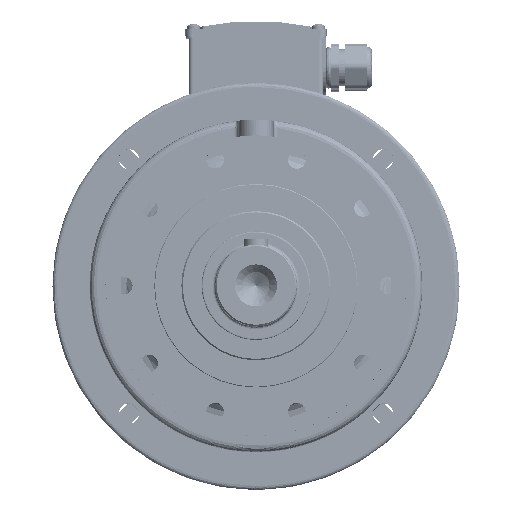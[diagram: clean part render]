
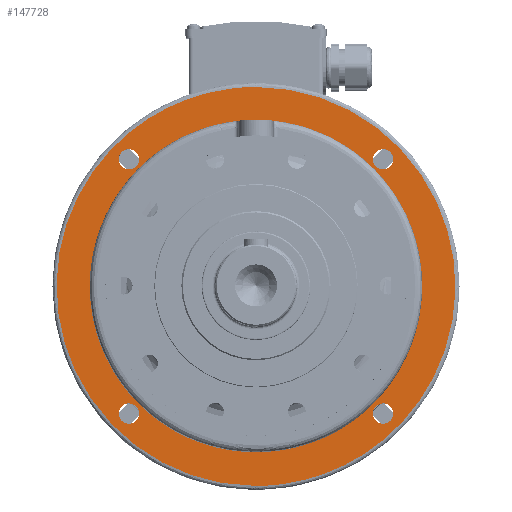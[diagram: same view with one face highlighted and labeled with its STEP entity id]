
A CAD part, top view. The second image highlights one B-rep face of the part: STEP entity #147728.
In plain terms, the highlighted planar face has unit normal (0, 0, 1).
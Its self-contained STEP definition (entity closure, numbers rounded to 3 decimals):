
#2413 = AXIS2_PLACEMENT_3D ( 'NONE', #175052, #175045, #175033 ) ;
#6098 = CARTESIAN_POINT ( 'NONE',  ( 0., -147., -77.5 ) ) ;
#70810 = CARTESIAN_POINT ( 'NONE',  ( 0., 147., -77.5 ) ) ;
#77344 =( BOUNDED_CURVE ( )  B_SPLINE_CURVE ( 3, ( #115249, #115272, #115271, #115260 ),
 .UNSPECIFIED., .F., .F. ) 
 B_SPLINE_CURVE_WITH_KNOTS ( ( 4, 4 ),
 ( 0., 0.5 ),
 .UNSPECIFIED. ) 
 CURVE ( )  GEOMETRIC_REPRESENTATION_ITEM ( )  RATIONAL_B_SPLINE_CURVE ( ( 1., 0.333, 0.333, 1. ) ) 
 REPRESENTATION_ITEM ( '' )  );
#98167 = CIRCLE ( 'NONE', #186392, 7.5 ) ;
#98244 = CIRCLE ( 'NONE', #186303, 113. ) ;
#98274 = CIRCLE ( 'NONE', #186316, 7.5 ) ;
#98390 = CIRCLE ( 'NONE', #186378, 7.5 ) ;
#98738 = CIRCLE ( 'NONE', #186450, 7.5 ) ;
#102196 = EDGE_LOOP ( 'NONE', ( #116614, #116649 ) ) ;
#102209 = EDGE_LOOP ( 'NONE', ( #116619, #116641 ) ) ;
#102233 = EDGE_LOOP ( 'NONE', ( #116622, #116618 ) ) ;
#102242 = EDGE_LOOP ( 'NONE', ( #116626, #116664 ) ) ;
#102257 = EDGE_LOOP ( 'NONE', ( #116638, #116696 ) ) ;
#102323 = EDGE_LOOP ( 'NONE', ( #116615, #116634 ) ) ;
#105916 = CARTESIAN_POINT ( 'NONE',  ( 0., 0., -77.5 ) ) ;
#105917 = DIRECTION ( 'NONE',  ( 0., 0., -1. ) ) ;
#105948 = DIRECTION ( 'NONE',  ( -1., 0., 0. ) ) ;
#105954 = CARTESIAN_POINT ( 'NONE',  ( 93.692, -93.692, -77.5 ) ) ;
#105960 = DIRECTION ( 'NONE',  ( 0., 0., -1. ) ) ;
#105973 = DIRECTION ( 'NONE',  ( -1., 0., 0. ) ) ;
#105974 = DIRECTION ( 'NONE',  ( -1., 0., 0. ) ) ;
#105978 = DIRECTION ( 'NONE',  ( 0., 0., -1. ) ) ;
#105988 = CARTESIAN_POINT ( 'NONE',  ( -93.692, 93.692, -77.5 ) ) ;
#106097 = CARTESIAN_POINT ( 'NONE',  ( 93.692, 93.692, -77.5 ) ) ;
#106098 = DIRECTION ( 'NONE',  ( -1., 0., 0. ) ) ;
#106124 = DIRECTION ( 'NONE',  ( 0., 0., -1. ) ) ;
#107097 = CARTESIAN_POINT ( 'NONE',  ( -93.692, -93.692, -77.5 ) ) ;
#107129 = DIRECTION ( 'NONE',  ( -1., 0., 0. ) ) ;
#107137 = DIRECTION ( 'NONE',  ( 0., 0., -1. ) ) ;
#115249 = CARTESIAN_POINT ( 'NONE',  ( 0., 147., -77.5 ) ) ;
#115260 = CARTESIAN_POINT ( 'NONE',  ( 0., -147., -77.5 ) ) ;
#115271 = CARTESIAN_POINT ( 'NONE',  ( 294., -147., -77.5 ) ) ;
#115272 = CARTESIAN_POINT ( 'NONE',  ( 294., 147., -77.5 ) ) ;
#116614 = ORIENTED_EDGE ( 'NONE', *, *, #179316, .F. ) ;
#116615 = ORIENTED_EDGE ( 'NONE', *, *, #180509, .T. ) ;
#116618 = ORIENTED_EDGE ( 'NONE', *, *, #180549, .T. ) ;
#116619 = ORIENTED_EDGE ( 'NONE', *, *, #194872, .T. ) ;
#116622 = ORIENTED_EDGE ( 'NONE', *, *, #194918, .T. ) ;
#116626 = ORIENTED_EDGE ( 'NONE', *, *, #194898, .T. ) ;
#116634 = ORIENTED_EDGE ( 'NONE', *, *, #191110, .T. ) ;
#116638 = ORIENTED_EDGE ( 'NONE', *, *, #194895, .T. ) ;
#116641 = ORIENTED_EDGE ( 'NONE', *, *, #180681, .T. ) ;
#116649 = ORIENTED_EDGE ( 'NONE', *, *, #194928, .F. ) ;
#116664 = ORIENTED_EDGE ( 'NONE', *, *, #180408, .T. ) ;
#116696 = ORIENTED_EDGE ( 'NONE', *, *, #180547, .T. ) ;
#136215 =( BOUNDED_CURVE ( )  B_SPLINE_CURVE ( 3, ( #169821, #169781, #169823, #169808 ),
 .UNSPECIFIED., .F., .T. ) 
 B_SPLINE_CURVE_WITH_KNOTS ( ( 4, 4 ),
 ( 0.5, 1. ),
 .UNSPECIFIED. ) 
 CURVE ( )  GEOMETRIC_REPRESENTATION_ITEM ( )  RATIONAL_B_SPLINE_CURVE ( ( 1., 0.333, 0.333, 1. ) ) 
 REPRESENTATION_ITEM ( '' )  );
#136507 = AXIS2_PLACEMENT_3D ( 'NONE', #169643, #169651, #169738 ) ;
#136527 = AXIS2_PLACEMENT_3D ( 'NONE', #169746, #169670, #169711 ) ;
#136547 = AXIS2_PLACEMENT_3D ( 'NONE', #169768, #169771, #169818 ) ;
#136604 = AXIS2_PLACEMENT_3D ( 'NONE', #169546, #169549, #169574 ) ;
#139567 = AXIS2_PLACEMENT_3D ( 'NONE', #149135, #149197, #149153 ) ;
#145784 = VERTEX_POINT ( 'NONE', #166886 ) ;
#145785 = VERTEX_POINT ( 'NONE', #166905 ) ;
#145791 = VERTEX_POINT ( 'NONE', #166961 ) ;
#145804 = VERTEX_POINT ( 'NONE', #166992 ) ;
#145806 = VERTEX_POINT ( 'NONE', #166981 ) ;
#145811 = VERTEX_POINT ( 'NONE', #166985 ) ;
#145821 = VERTEX_POINT ( 'NONE', #166987 ) ;
#145828 = VERTEX_POINT ( 'NONE', #167074 ) ;
#145836 = VERTEX_POINT ( 'NONE', #167009 ) ;
#145857 = VERTEX_POINT ( 'NONE', #167057 ) ;
#147728 = ADVANCED_FACE ( 'NONE', ( #164454, #164457, #164560, #164471, #164524, #164563 ), #175007, .T. ) ;
#148451 = CIRCLE ( 'NONE', #139567, 113. ) ;
#149135 = CARTESIAN_POINT ( 'NONE',  ( 0., 0., -77.5 ) ) ;
#149153 = DIRECTION ( 'NONE',  ( -1., 0., 0. ) ) ;
#149197 = DIRECTION ( 'NONE',  ( 0., 0., -1. ) ) ;
#154017 = VERTEX_POINT ( 'NONE', #70810 ) ;
#155782 = VERTEX_POINT ( 'NONE', #6098 ) ;
#164454 = FACE_BOUND ( 'NONE', #102323, .T. ) ;
#164457 = FACE_OUTER_BOUND ( 'NONE', #102196, .T. ) ;
#164471 = FACE_BOUND ( 'NONE', #102233, .T. ) ;
#164524 = FACE_BOUND ( 'NONE', #102242, .T. ) ;
#164560 = FACE_BOUND ( 'NONE', #102209, .T. ) ;
#164563 = FACE_BOUND ( 'NONE', #102257, .T. ) ;
#166410 = CIRCLE ( 'NONE', #136507, 7.5 ) ;
#166429 = CIRCLE ( 'NONE', #136527, 7.5 ) ;
#166432 = CIRCLE ( 'NONE', #136547, 7.5 ) ;
#166451 = CIRCLE ( 'NONE', #136604, 7.5 ) ;
#166886 = CARTESIAN_POINT ( 'NONE',  ( -101.192, 93.692, -77.5 ) ) ;
#166905 = CARTESIAN_POINT ( 'NONE',  ( -113., 0., -77.5 ) ) ;
#166961 = CARTESIAN_POINT ( 'NONE',  ( 86.192, -93.692, -77.5 ) ) ;
#166981 = CARTESIAN_POINT ( 'NONE',  ( -86.192, 93.692, -77.5 ) ) ;
#166985 = CARTESIAN_POINT ( 'NONE',  ( -101.192, -93.692, -77.5 ) ) ;
#166987 = CARTESIAN_POINT ( 'NONE',  ( 101.192, -93.692, -77.5 ) ) ;
#166992 = CARTESIAN_POINT ( 'NONE',  ( 101.192, 93.692, -77.5 ) ) ;
#167009 = CARTESIAN_POINT ( 'NONE',  ( -86.192, -93.692, -77.5 ) ) ;
#167057 = CARTESIAN_POINT ( 'NONE',  ( 113., 0., -77.5 ) ) ;
#167074 = CARTESIAN_POINT ( 'NONE',  ( 86.192, 93.692, -77.5 ) ) ;
#169546 = CARTESIAN_POINT ( 'NONE',  ( 93.692, 93.692, -77.5 ) ) ;
#169549 = DIRECTION ( 'NONE',  ( 0., 0., -1. ) ) ;
#169574 = DIRECTION ( 'NONE',  ( -1., 0., 0. ) ) ;
#169643 = CARTESIAN_POINT ( 'NONE',  ( -93.692, -93.692, -77.5 ) ) ;
#169651 = DIRECTION ( 'NONE',  ( 0., 0., -1. ) ) ;
#169670 = DIRECTION ( 'NONE',  ( 0., 0., -1. ) ) ;
#169711 = DIRECTION ( 'NONE',  ( -1., 0., 0. ) ) ;
#169738 = DIRECTION ( 'NONE',  ( -1., 0., 0. ) ) ;
#169746 = CARTESIAN_POINT ( 'NONE',  ( 93.692, -93.692, -77.5 ) ) ;
#169768 = CARTESIAN_POINT ( 'NONE',  ( -93.692, 93.692, -77.5 ) ) ;
#169771 = DIRECTION ( 'NONE',  ( 0., 0., -1. ) ) ;
#169781 = CARTESIAN_POINT ( 'NONE',  ( -294., -147., -77.5 ) ) ;
#169808 = CARTESIAN_POINT ( 'NONE',  ( 0., 147., -77.5 ) ) ;
#169818 = DIRECTION ( 'NONE',  ( -1., 0., 0. ) ) ;
#169821 = CARTESIAN_POINT ( 'NONE',  ( 0., -147., -77.5 ) ) ;
#169823 = CARTESIAN_POINT ( 'NONE',  ( -294., 147., -77.5 ) ) ;
#175007 = PLANE ( 'NONE',  #2413 ) ;
#175033 = DIRECTION ( 'NONE',  ( 1., 0., 0. ) ) ;
#175045 = DIRECTION ( 'NONE',  ( 0., 0., 1. ) ) ;
#175052 = CARTESIAN_POINT ( 'NONE',  ( 0., 113., -77.5 ) ) ;
#179316 = EDGE_CURVE ( 'NONE', #154017, #155782, #77344, .T. ) ;
#180408 = EDGE_CURVE ( 'NONE', #145836, #145811, #98167, .T. ) ;
#180509 = EDGE_CURVE ( 'NONE', #145785, #145857, #98244, .T. ) ;
#180547 = EDGE_CURVE ( 'NONE', #145821, #145791, #98390, .T. ) ;
#180549 = EDGE_CURVE ( 'NONE', #145806, #145784, #98274, .T. ) ;
#180681 = EDGE_CURVE ( 'NONE', #145804, #145828, #98738, .T. ) ;
#186303 = AXIS2_PLACEMENT_3D ( 'NONE', #105916, #105917, #105948 ) ;
#186316 = AXIS2_PLACEMENT_3D ( 'NONE', #105988, #105978, #105974 ) ;
#186378 = AXIS2_PLACEMENT_3D ( 'NONE', #105954, #105960, #105973 ) ;
#186392 = AXIS2_PLACEMENT_3D ( 'NONE', #107097, #107137, #107129 ) ;
#186450 = AXIS2_PLACEMENT_3D ( 'NONE', #106097, #106124, #106098 ) ;
#191110 = EDGE_CURVE ( 'NONE', #145857, #145785, #148451, .T. ) ;
#194872 = EDGE_CURVE ( 'NONE', #145828, #145804, #166451, .T. ) ;
#194895 = EDGE_CURVE ( 'NONE', #145791, #145821, #166429, .T. ) ;
#194898 = EDGE_CURVE ( 'NONE', #145811, #145836, #166410, .T. ) ;
#194918 = EDGE_CURVE ( 'NONE', #145784, #145806, #166432, .T. ) ;
#194928 = EDGE_CURVE ( 'NONE', #155782, #154017, #136215, .T. ) ;
